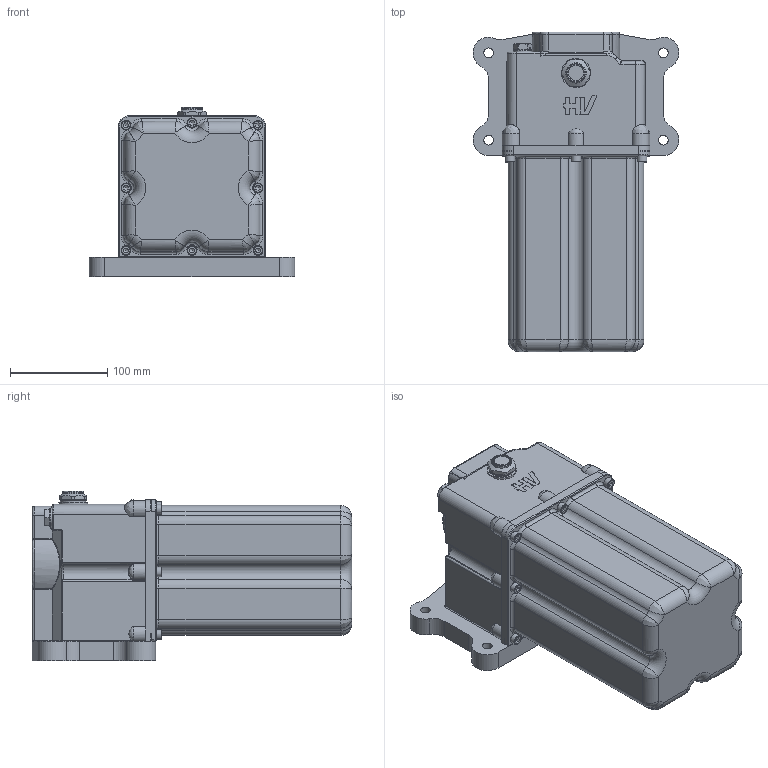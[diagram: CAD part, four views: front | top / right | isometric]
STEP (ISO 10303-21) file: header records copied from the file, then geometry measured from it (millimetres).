
FILE_DESCRIPTION((''),'2;1');
FILE_NAME('G:\HV_HYDRAULIC\AZIENDA_HV_HYDRAULIC\ARCHIVIO_DISEGNI\5_PRODOTTI_FINITI\4_SERBATOI\6500_SERBATOI\6500.0523_S5_al_(livello_olio)_(HV)\6500.0523.stp','2024-09-17T07:48:41',('christian.scardovi'),(''),'Autodesk Inventor 2013','Autodesk Inventor 2013','');
FILE_SCHEMA(('AUTOMOTIVE_DESIGN { 1 0 10303 214 1 1 1 1 }'));
Length unit declared in the file: millimetre
Products named in the file (1): 6500.0523
Bounding box: 211.96 x 329 x 174.5 mm (x, y, z)
Volume: 1159605.6 mm3; surface area: 518253 mm2
Topology: 1 solids, 2 shells, 1970 faces, 4669 edges, 2655 vertices
Faces by surface type: cylinder 776, plane 480, torus 345, bspline 232, sphere 112, cone 25
Full cylindrical faces by diameter (mm): 2.15 x1, 6.647 x4, 7.8 x1, 10 x12, 11.445 x1, 12 x1, 14.8 x1, 15 x3, 16 x1, 18.631 x1, 19 x3, 19.2 x1, 19.3 x1, 21 x1, 26 x1, 26.8 x1, 30 x1
Entity records: 65919 total; most frequent: CARTESIAN_POINT 20076, DIRECTION 9551, ORIENTED_EDGE 8956, EDGE_CURVE 4478, AXIS2_PLACEMENT_3D 3872, VERTEX_POINT 2620, EDGE_LOOP 2095, CIRCLE 2003
